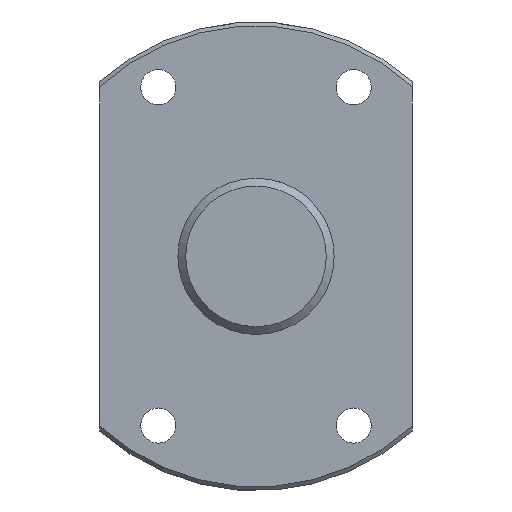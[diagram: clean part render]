
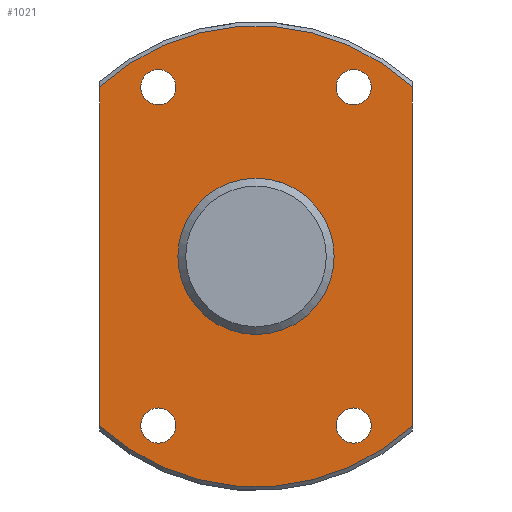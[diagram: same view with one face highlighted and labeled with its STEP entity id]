
A CAD part, left-side view. The second image highlights one B-rep face of the part: STEP entity #1021.
In plain terms, the highlighted planar face has unit normal (-1, 0, 0).
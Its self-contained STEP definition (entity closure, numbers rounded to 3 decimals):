
#315=CARTESIAN_POINT('',(273.141,-20.0,21.685));
#316=VERTEX_POINT('',#315);
#341=CARTESIAN_POINT('',(273.141,20.0,21.685));
#342=VERTEX_POINT('',#341);
#356=CARTESIAN_POINT('',(273.141,0.0,0.0));
#357=DIRECTION('',(1.0,0.0,0.0));
#358=DIRECTION('',(0.0,1.0,0.0));
#359=AXIS2_PLACEMENT_3D('',#356,#357,#358);
#360=CIRCLE('',#359,29.5);
#361=EDGE_CURVE('',#342,#316,#360,.T.);
#484=CARTESIAN_POINT('',(273.141,-20.0,-21.685));
#485=VERTEX_POINT('',#484);
#486=CARTESIAN_POINT('',(273.141,-20.0,21.685));
#487=DIRECTION('',(0.0,0.0,-1.0));
#488=VECTOR('',#487,43.37);
#489=LINE('',#486,#488);
#490=EDGE_CURVE('',#316,#485,#489,.T.);
#566=CARTESIAN_POINT('',(273.141,20.0,-21.685));
#567=VERTEX_POINT('',#566);
#591=CARTESIAN_POINT('',(273.141,0.0,0.0));
#592=DIRECTION('',(1.0,0.0,0.0));
#593=DIRECTION('',(0.0,1.0,0.0));
#594=AXIS2_PLACEMENT_3D('',#591,#592,#593);
#595=CIRCLE('',#594,29.5);
#596=EDGE_CURVE('',#485,#567,#595,.T.);
#677=CARTESIAN_POINT('',(273.141,20.0,-21.685));
#678=DIRECTION('',(0.0,0.0,1.0));
#679=VECTOR('',#678,43.37);
#680=LINE('',#677,#679);
#681=EDGE_CURVE('',#567,#342,#680,.T.);
#903=CARTESIAN_POINT('',(273.141,10.0,0.));
#904=VERTEX_POINT('',#903);
#905=CARTESIAN_POINT('',(273.141,0.0,0.0));
#906=DIRECTION('',(1.0,0.0,0.0));
#907=DIRECTION('',(0.0,-1.0,0.0));
#908=AXIS2_PLACEMENT_3D('',#905,#906,#907);
#909=CIRCLE('',#908,10.0);
#910=EDGE_CURVE('',#904,#904,#909,.T.);
#923=CARTESIAN_POINT('',(273.141,14.75,-21.651));
#924=VERTEX_POINT('',#923);
#925=CARTESIAN_POINT('',(273.141,12.5,-21.651));
#926=DIRECTION('',(1.0,0.0,0.0));
#927=DIRECTION('',(0.0,1.0,0.0));
#928=AXIS2_PLACEMENT_3D('',#925,#926,#927);
#929=CIRCLE('',#928,2.25);
#930=EDGE_CURVE('',#924,#924,#929,.T.);
#943=CARTESIAN_POINT('',(273.141,-10.25,21.651));
#944=VERTEX_POINT('',#943);
#945=CARTESIAN_POINT('',(273.141,-12.5,21.651));
#946=DIRECTION('',(1.0,0.0,0.0));
#947=DIRECTION('',(0.0,1.0,0.0));
#948=AXIS2_PLACEMENT_3D('',#945,#946,#947);
#949=CIRCLE('',#948,2.25);
#950=EDGE_CURVE('',#944,#944,#949,.T.);
#963=CARTESIAN_POINT('',(273.141,14.75,21.651));
#964=VERTEX_POINT('',#963);
#965=CARTESIAN_POINT('',(273.141,12.5,21.651));
#966=DIRECTION('',(1.0,0.0,0.0));
#967=DIRECTION('',(0.0,1.0,0.0));
#968=AXIS2_PLACEMENT_3D('',#965,#966,#967);
#969=CIRCLE('',#968,2.25);
#970=EDGE_CURVE('',#964,#964,#969,.T.);
#983=CARTESIAN_POINT('',(273.141,-10.25,-21.651));
#984=VERTEX_POINT('',#983);
#985=CARTESIAN_POINT('',(273.141,-12.5,-21.651));
#986=DIRECTION('',(1.0,0.0,0.0));
#987=DIRECTION('',(0.0,1.0,0.0));
#988=AXIS2_PLACEMENT_3D('',#985,#986,#987);
#989=CIRCLE('',#988,2.25);
#990=EDGE_CURVE('',#984,#984,#989,.T.);
#995=CARTESIAN_POINT('',(273.141,0.0,0.0));
#996=DIRECTION('',(-1.0,0.0,0.0));
#997=DIRECTION('',(0.0,0.0,1.0));
#998=AXIS2_PLACEMENT_3D('',#995,#996,#997);
#999=PLANE('',#998);
#1000=ORIENTED_EDGE('',*,*,#361,.F.);
#1001=ORIENTED_EDGE('',*,*,#681,.F.);
#1002=ORIENTED_EDGE('',*,*,#596,.F.);
#1003=ORIENTED_EDGE('',*,*,#490,.F.);
#1004=EDGE_LOOP('',(#1000,#1001,#1002,#1003));
#1005=FACE_OUTER_BOUND('',#1004,.T.);
#1006=ORIENTED_EDGE('',*,*,#910,.T.);
#1007=EDGE_LOOP('',(#1006));
#1008=FACE_BOUND('',#1007,.T.);
#1009=ORIENTED_EDGE('',*,*,#930,.T.);
#1010=EDGE_LOOP('',(#1009));
#1011=FACE_BOUND('',#1010,.T.);
#1012=ORIENTED_EDGE('',*,*,#950,.T.);
#1013=EDGE_LOOP('',(#1012));
#1014=FACE_BOUND('',#1013,.T.);
#1015=ORIENTED_EDGE('',*,*,#970,.T.);
#1016=EDGE_LOOP('',(#1015));
#1017=FACE_BOUND('',#1016,.T.);
#1018=ORIENTED_EDGE('',*,*,#990,.T.);
#1019=EDGE_LOOP('',(#1018));
#1020=FACE_BOUND('',#1019,.T.);
#1021=ADVANCED_FACE('',(#1005,#1008,#1011,#1014,#1017,#1020),#999,.T.);
